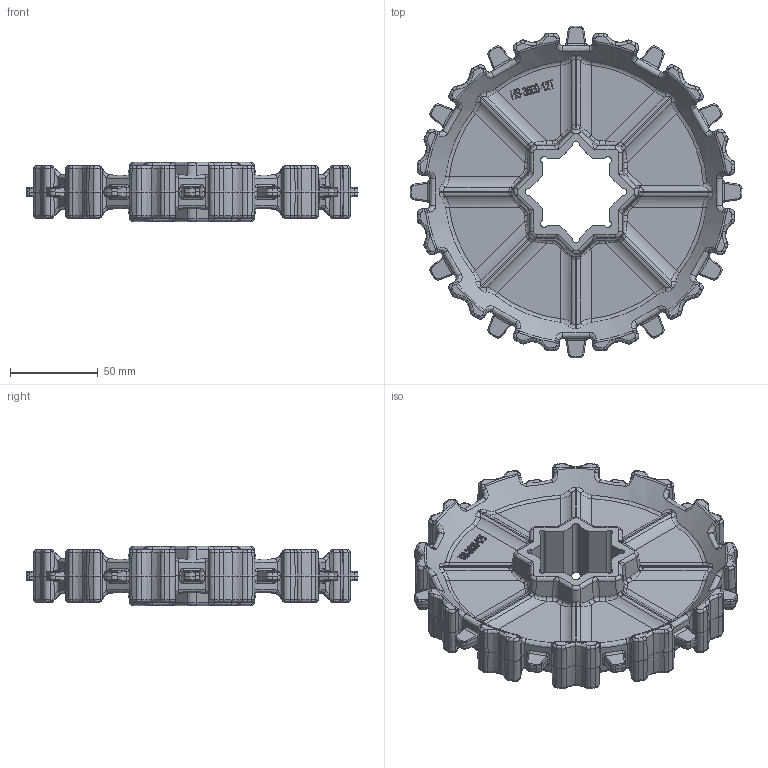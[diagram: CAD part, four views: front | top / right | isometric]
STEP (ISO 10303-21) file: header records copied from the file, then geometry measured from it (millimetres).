
FILE_DESCRIPTION(/* description */ (''),/* implementation_level */ '2;1');
FILE_NAME(/* name */ 'HS-3600-12T.stp',/* time_stamp */ '2020-03-27T14:13:15+08:00',/* author */ (''),/* organization */ (''),/* preprocessor_version */ 'ST-DEVELOPER v15',/* originating_system */ 'SIEMENS PLM Software NX 8.5',/* authorisation */ '');
FILE_SCHEMA (('AP203_CONFIGURATION_CONTROLLED_3D_DESIGN_OF_MECHANICAL_PARTS_AND_ASSEMBLIES_MIM_LF { 1 0 10303 403 2 1 2}'));
Products named in the file (1): Admi1B20E469ttcx
Bounding box: 189.2 x 189.2 x 33.8 mm (x, y, z)
Volume: 289998.4 mm3; surface area: 82005 mm2
Topology: 1 solids, 1 shells, 1824 faces, 4216 edges, 2406 vertices
Faces by surface type: bspline 628, cylinder 550, plane 436, torus 104, extrusion 56, cone 50
Entity records: 64472 total; most frequent: CARTESIAN_POINT 27681, ORIENTED_EDGE 8392, DIRECTION 6706, EDGE_CURVE 4196, AXIS2_PLACEMENT_3D 2645, VERTEX_POINT 2404, EDGE_LOOP 1856, ADVANCED_FACE 1824
